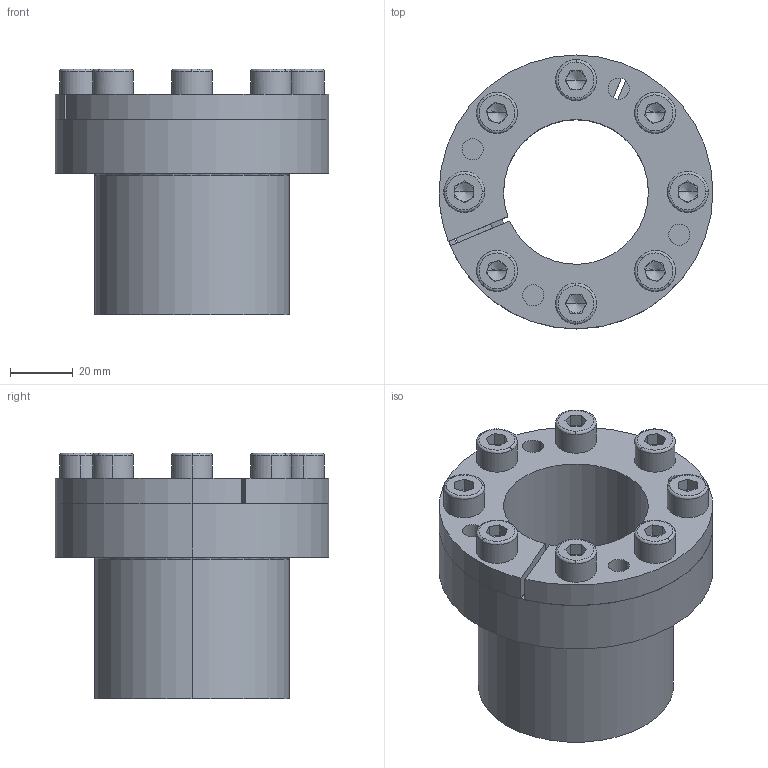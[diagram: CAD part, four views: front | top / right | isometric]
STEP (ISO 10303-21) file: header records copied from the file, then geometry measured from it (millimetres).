
FILE_DESCRIPTION (( 'STEP AP214' ), '1' );
FILE_NAME ('CONEX-B-46x62.STEP', '2022-04-21T11:01:53', ( '' ), ( '' ), 'SwSTEP 2.0', 'SolidWorks 2021', '' );
FILE_SCHEMA (( 'AUTOMOTIVE_DESIGN' ));
Length unit declared in the file: millimetre
Products named in the file (1): CONEX-B-46x62
Bounding box: 87 x 87 x 78.02 mm (x, y, z)
Volume: 155051.9 mm3; surface area: 79224.4 mm2
Topology: 11 solids, 11 shells, 296 faces, 724 edges, 450 vertices
Faces by surface type: plane 132, cylinder 88, bspline 38, cone 38
Entity records: 13913 total; most frequent: CARTESIAN_POINT 3530, DIRECTION 1510, ORIENTED_EDGE 1416, EDGE_CURVE 708, AXIS2_PLACEMENT_3D 589, VERTEX_POINT 450, EDGE_LOOP 354, LINE 332
